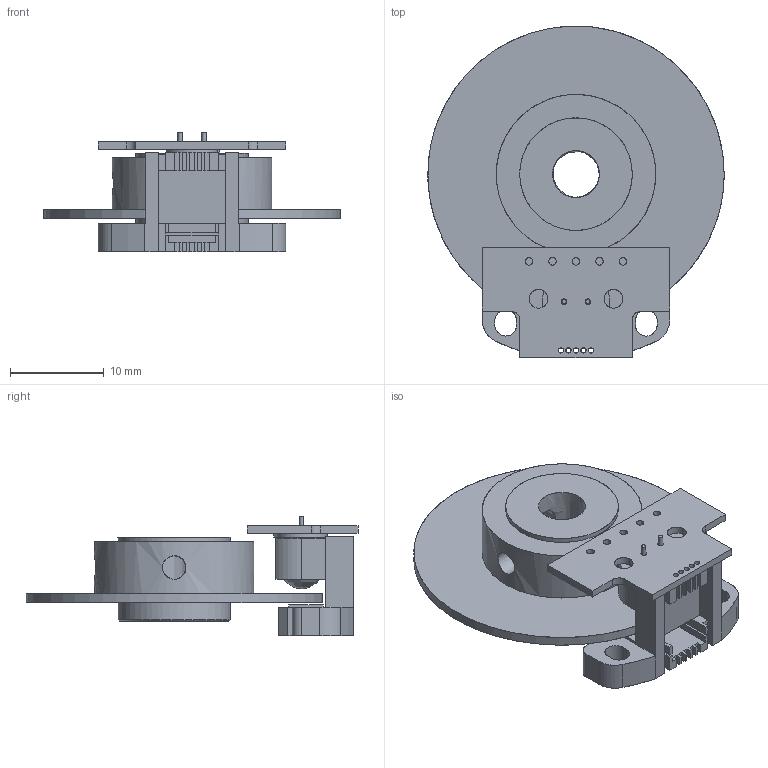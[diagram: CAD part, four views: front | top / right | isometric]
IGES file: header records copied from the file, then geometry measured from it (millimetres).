
Start section: Missler Software 3 rue Hermes, EUROPARC, 31520 Ramonville-Saint-Agne, France Tel   : +33 (0)5 61 00 03 00 Fax   : +33 (0)5 61 00 03 03 Email : sup.solid@topsolid.com
Global section: file name: \\192.168.0.150\share\技術部\図面フォルダ（メンバー共用）\外形図データ\IGES\MG-30.igs; native system: TopSolid v613200 Missler Software; preprocessor: IGES preprocessor v100000; author: MTL; organization: コダマコーポレーション株式会社,10,7,13H170125; date: 180207.183905; units: millimetre
Bounding box: 31.6 x 35.4 x 12.7 mm (x, y, z)
Surface area: 4082.4 mm2 (no closed solid volume)
Topology: 0 solids, 0 shells, 197 faces, 1992 edges, 1962 vertices
Faces by surface type: bspline 197
